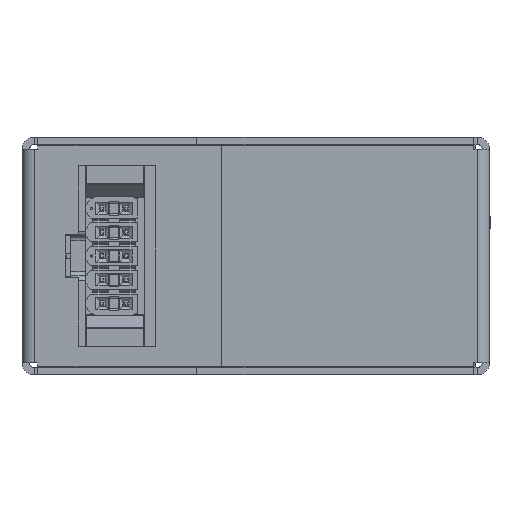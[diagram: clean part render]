
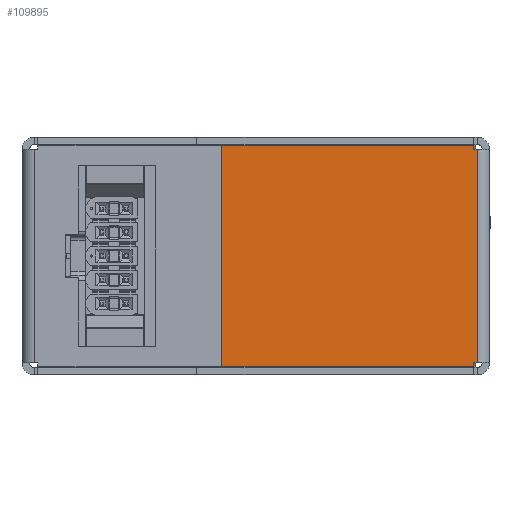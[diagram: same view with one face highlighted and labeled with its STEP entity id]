
A CAD part, left-side view. The second image highlights one B-rep face of the part: STEP entity #109895.
In plain terms, the highlighted planar face has unit normal (-1, 0, 0).
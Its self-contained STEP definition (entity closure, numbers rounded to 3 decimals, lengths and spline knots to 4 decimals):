
#1078 = VECTOR ( 'NONE', #112281, 39.3701 ) ;
#2129 = ORIENTED_EDGE ( 'NONE', *, *, #127753, .F. ) ;
#2175 = VECTOR ( 'NONE', #33938, 39.3701 ) ;
#2247 = VECTOR ( 'NONE', #38465, 39.3701 ) ;
#2672 = CARTESIAN_POINT ( 'NONE',  ( -1.8867, 1.1297, -0.4656 ) ) ;
#3197 = CARTESIAN_POINT ( 'NONE',  ( -1.8867, 1.2322, 0.4651 ) ) ;
#3204 = ORIENTED_EDGE ( 'NONE', *, *, #120161, .F. ) ;
#3895 = DIRECTION ( 'NONE',  ( 1., 0., 0. ) ) ;
#4047 = LINE ( 'NONE', #28890, #144562 ) ;
#5849 = CARTESIAN_POINT ( 'NONE',  ( -1.8867, 1.1297, 0.4651 ) ) ;
#11258 = DIRECTION ( 'NONE',  ( 0., 1., 0. ) ) ;
#11859 = VERTEX_POINT ( 'NONE', #2672 ) ;
#12831 = LINE ( 'NONE', #61737, #2247 ) ;
#13670 = AXIS2_PLACEMENT_3D ( 'NONE', #125811, #3895, #52798 ) ;
#13848 = VERTEX_POINT ( 'NONE', #124465 ) ;
#16363 = LINE ( 'NONE', #112630, #113057 ) ;
#17857 = CARTESIAN_POINT ( 'NONE',  ( -1.8867, 0.0527, -0.5002 ) ) ;
#23392 = CARTESIAN_POINT ( 'NONE',  ( -1.8867, 1.1286, -0.4656 ) ) ;
#25669 = CARTESIAN_POINT ( 'NONE',  ( -1.8867, 1.2332, 0.4655 ) ) ;
#26817 = DIRECTION ( 'NONE',  ( 0., 0., 1. ) ) ;
#28453 = ORIENTED_EDGE ( 'NONE', *, *, #29385, .T. ) ;
#28890 = CARTESIAN_POINT ( 'NONE',  ( -1.8867, 1.1297, -0.4659 ) ) ;
#29150 = DIRECTION ( 'NONE',  ( 0., -1., 0. ) ) ;
#29385 = EDGE_CURVE ( 'NONE', #68812, #53798, #122920, .T. ) ;
#33382 = VECTOR ( 'NONE', #136807, 39.3701 ) ;
#33938 = DIRECTION ( 'NONE',  ( 0., -1., 0. ) ) ;
#34372 = EDGE_CURVE ( 'NONE', #11859, #117131, #70035, .T. ) ;
#36291 = CARTESIAN_POINT ( 'NONE',  ( -1.8867, 1.2332, -0.4659 ) ) ;
#36400 = LINE ( 'NONE', #134299, #82616 ) ;
#38465 = DIRECTION ( 'NONE',  ( 0., -1., 0. ) ) ;
#39922 = EDGE_CURVE ( 'NONE', #104044, #85402, #109900, .T. ) ;
#41520 = EDGE_CURVE ( 'NONE', #53598, #71842, #12831, .T. ) ;
#43111 = VECTOR ( 'NONE', #121319, 39.3701 ) ;
#47837 = EDGE_CURVE ( 'NONE', #66627, #55273, #126223, .T. ) ;
#49166 = ORIENTED_EDGE ( 'NONE', *, *, #124565, .F. ) ;
#50024 = DIRECTION ( 'NONE',  ( 0., 0., -1. ) ) ;
#52798 = DIRECTION ( 'NONE',  ( 0., 0., -1. ) ) ;
#52821 = ORIENTED_EDGE ( 'NONE', *, *, #34372, .F. ) ;
#53598 = VERTEX_POINT ( 'NONE', #99662 ) ;
#53798 = VERTEX_POINT ( 'NONE', #130031 ) ;
#55273 = VERTEX_POINT ( 'NONE', #147455 ) ;
#57473 = ORIENTED_EDGE ( 'NONE', *, *, #147391, .T. ) ;
#57661 = ORIENTED_EDGE ( 'NONE', *, *, #41520, .F. ) ;
#61737 = CARTESIAN_POINT ( 'NONE',  ( -1.8867, 1.2332, 0.4483 ) ) ;
#66627 = VERTEX_POINT ( 'NONE', #130372 ) ;
#68812 = VERTEX_POINT ( 'NONE', #114315 ) ;
#70035 = LINE ( 'NONE', #155912, #43111 ) ;
#71842 = VERTEX_POINT ( 'NONE', #139842 ) ;
#75074 = CARTESIAN_POINT ( 'NONE',  ( -1.8867, 0.0681, -0.5002 ) ) ;
#82616 = VECTOR ( 'NONE', #50024, 39.3701 ) ;
#85402 = VERTEX_POINT ( 'NONE', #135905 ) ;
#86577 = FACE_OUTER_BOUND ( 'NONE', #101450, .T. ) ;
#86916 = ORIENTED_EDGE ( 'NONE', *, *, #99682, .F. ) ;
#87878 = LINE ( 'NONE', #75074, #33382 ) ;
#88224 = LINE ( 'NONE', #3197, #1078 ) ;
#90183 = ORIENTED_EDGE ( 'NONE', *, *, #39922, .T. ) ;
#90230 = CARTESIAN_POINT ( 'NONE',  ( -1.8867, 1.1286, -0.4656 ) ) ;
#94982 = ORIENTED_EDGE ( 'NONE', *, *, #156249, .F. ) ;
#98612 = PLANE ( 'NONE',  #13670 ) ;
#99662 = CARTESIAN_POINT ( 'NONE',  ( -1.8867, 0.0681, 0.4483 ) ) ;
#99682 = EDGE_CURVE ( 'NONE', #126522, #85402, #4047, .T. ) ;
#101450 = EDGE_LOOP ( 'NONE', ( #52821, #3204, #28453, #49166, #157454, #57473, #57661, #136617, #90183, #86916, #2129, #94982 ) ) ;
#104044 = VERTEX_POINT ( 'NONE', #132016 ) ;
#105289 = DIRECTION ( 'NONE',  ( 0., 0., 1. ) ) ;
#109895 = ADVANCED_FACE ( 'NONE', ( #86577 ), #98612, .F. ) ;
#109900 = LINE ( 'NONE', #25669, #130145 ) ;
#112281 = DIRECTION ( 'NONE',  ( 0., 1., 0. ) ) ;
#112630 = CARTESIAN_POINT ( 'NONE',  ( -1.8867, 1.1297, -0.4659 ) ) ;
#113057 = VECTOR ( 'NONE', #26817, 39.3701 ) ;
#114315 = CARTESIAN_POINT ( 'NONE',  ( -1.8867, 1.1297, -0.4659 ) ) ;
#115577 = VECTOR ( 'NONE', #29150, 39.3701 ) ;
#117131 = VERTEX_POINT ( 'NONE', #23392 ) ;
#120161 = EDGE_CURVE ( 'NONE', #68812, #11859, #16363, .T. ) ;
#121319 = DIRECTION ( 'NONE',  ( 0., -1., 0. ) ) ;
#122920 = LINE ( 'NONE', #36291, #2175 ) ;
#124160 = LINE ( 'NONE', #90230, #157095 ) ;
#124465 = CARTESIAN_POINT ( 'NONE',  ( -1.8867, 1.1286, 0.4651 ) ) ;
#124565 = EDGE_CURVE ( 'NONE', #66627, #53798, #36400, .T. ) ;
#125811 = CARTESIAN_POINT ( 'NONE',  ( -1.8867, 1.2332, -0.5002 ) ) ;
#126223 = LINE ( 'NONE', #151136, #115577 ) ;
#126522 = VERTEX_POINT ( 'NONE', #5849 ) ;
#127753 = EDGE_CURVE ( 'NONE', #13848, #126522, #88224, .T. ) ;
#128557 = LINE ( 'NONE', #17857, #156308 ) ;
#130031 = CARTESIAN_POINT ( 'NONE',  ( -1.8867, 0.0681, -0.4659 ) ) ;
#130145 = VECTOR ( 'NONE', #11258, 39.3701 ) ;
#130372 = CARTESIAN_POINT ( 'NONE',  ( -1.8867, 0.0681, -0.4487 ) ) ;
#132016 = CARTESIAN_POINT ( 'NONE',  ( -1.8867, 0.0681, 0.4655 ) ) ;
#134299 = CARTESIAN_POINT ( 'NONE',  ( -1.8867, 0.0681, -0.5002 ) ) ;
#135905 = CARTESIAN_POINT ( 'NONE',  ( -1.8867, 1.1297, 0.4655 ) ) ;
#136617 = ORIENTED_EDGE ( 'NONE', *, *, #149309, .T. ) ;
#136807 = DIRECTION ( 'NONE',  ( 0., 0., 1. ) ) ;
#139842 = CARTESIAN_POINT ( 'NONE',  ( -1.8867, 0.0527, 0.4483 ) ) ;
#144562 = VECTOR ( 'NONE', #150106, 39.3701 ) ;
#147391 = EDGE_CURVE ( 'NONE', #55273, #71842, #128557, .T. ) ;
#147455 = CARTESIAN_POINT ( 'NONE',  ( -1.8867, 0.0527, -0.4487 ) ) ;
#147506 = DIRECTION ( 'NONE',  ( 0., 0., 1. ) ) ;
#149309 = EDGE_CURVE ( 'NONE', #53598, #104044, #87878, .T. ) ;
#150106 = DIRECTION ( 'NONE',  ( 0., 0., 1. ) ) ;
#151136 = CARTESIAN_POINT ( 'NONE',  ( -1.8867, 1.2332, -0.4487 ) ) ;
#155912 = CARTESIAN_POINT ( 'NONE',  ( -1.8867, 1.2322, -0.4656 ) ) ;
#156249 = EDGE_CURVE ( 'NONE', #117131, #13848, #124160, .T. ) ;
#156308 = VECTOR ( 'NONE', #105289, 39.3701 ) ;
#157095 = VECTOR ( 'NONE', #147506, 39.3701 ) ;
#157454 = ORIENTED_EDGE ( 'NONE', *, *, #47837, .T. ) ;
